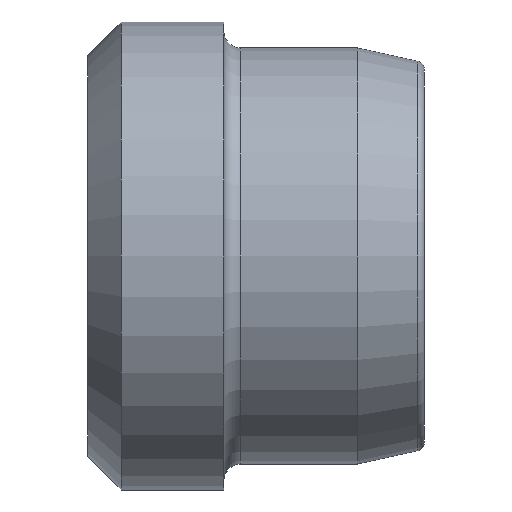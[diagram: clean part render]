
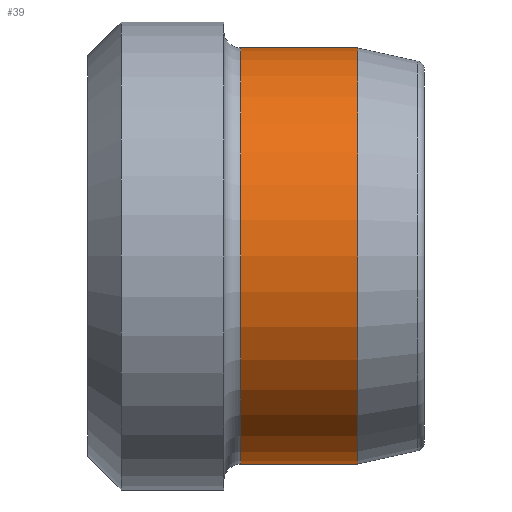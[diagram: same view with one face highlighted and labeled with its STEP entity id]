
A CAD part, front view. The second image highlights one B-rep face of the part: STEP entity #39.
In plain terms, the highlighted cylindrical face has radius 6.225 mm (diameter 12.45 mm), a full revolution.
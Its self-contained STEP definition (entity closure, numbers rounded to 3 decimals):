
#39 = ADVANCED_FACE( '', ( #86, #87 ), #88, .T. );
#86 = FACE_OUTER_BOUND( '', #153, .T. );
#87 = FACE_OUTER_BOUND( '', #154, .T. );
#88 = CYLINDRICAL_SURFACE( '', #155, 6.225 );
#153 = EDGE_LOOP( '', ( #248 ) );
#154 = EDGE_LOOP( '', ( #249 ) );
#155 = AXIS2_PLACEMENT_3D( '', #250, #251, #252 );
#248 = ORIENTED_EDGE( '', *, *, #335, .F. );
#249 = ORIENTED_EDGE( '', *, *, #336, .F. );
#250 = CARTESIAN_POINT( '', ( 0.75, -0.633, 0. ) );
#251 = DIRECTION( '', ( -1., 0., 0. ) );
#252 = DIRECTION( '', ( 0., 1., 0. ) );
#335 = EDGE_CURVE( '', #365, #365, #366, .T. );
#336 = EDGE_CURVE( '', #367, #367, #368, .T. );
#365 = VERTEX_POINT( '', #410 );
#366 = CIRCLE( '', #411, 6.225 );
#367 = VERTEX_POINT( '', #412 );
#368 = CIRCLE( '', #413, 6.225 );
#410 = CARTESIAN_POINT( '', ( -0.75, -6.858, 0. ) );
#411 = AXIS2_PLACEMENT_3D( '', #454, #455, #456 );
#412 = CARTESIAN_POINT( '', ( 2.75, 5.592, 0. ) );
#413 = AXIS2_PLACEMENT_3D( '', #457, #458, #459 );
#454 = CARTESIAN_POINT( '', ( -0.75, -0.633, 0. ) );
#455 = DIRECTION( '', ( -1., 0., 0. ) );
#456 = DIRECTION( '', ( 0., -1., 0. ) );
#457 = CARTESIAN_POINT( '', ( 2.75, -0.633, 0. ) );
#458 = DIRECTION( '', ( 1., 0., 0. ) );
#459 = DIRECTION( '', ( 0., 1., 0. ) );
